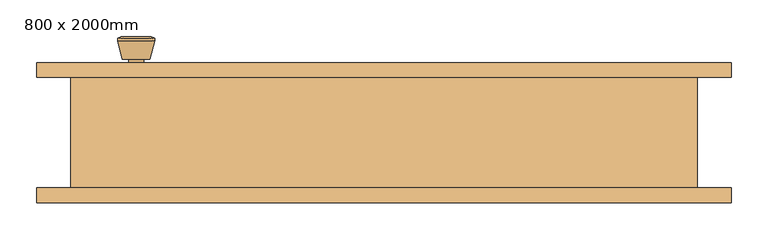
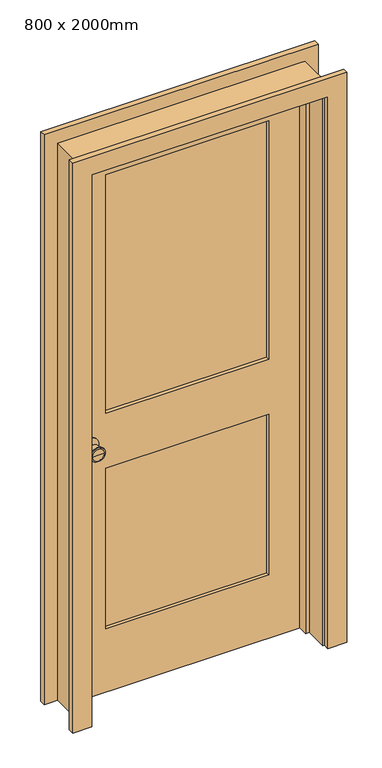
"""IFC4 building model written with IfcOpenShell, lengths in millimetres: door geometry, M_Dveře, vnitřní, jednokřídlé, dvě části, panel, dřevo : 800 x 2000mm."""

from ifc_helpers import new_model, si_unit, point, frame, frame_2d, origin, place, context, project, spatial, polyline, circle_curve, trimmed, segment, composite_curve, outline, extrude, faceted_brep, source, transform, mapped, element, save
from ifc_brep_helpers import plane_surface, cylinder_surface, revolved_surface, advanced_brep


def door_800_x_2000mm_50fb24a1(model_context):
    return source(origin(), model_context, "Body", "SolidModel", [
        advanced_brep(
        [(-336.5, 30.825, 914.4), (-326.5, 30.825, 914.4), (-346.5, 30.825, 914.4), (-316.0241324, -18.175, 914.4), (-336.5, -18.175, 914.4), (-356.9758676, -18.175, 914.4), (-311.5, -16.3471319, 914.4), (-361.5, -16.3471319, 914.4), (-311.5, -12.8834537, 914.4), (-361.5, -12.8834537, 914.4), (-317.863764, 11.825, 914.4), (-355.136236, 11.825, 914.4), (-326.5, 11.825, 914.4), (-346.5, 11.825, 914.4)],
        [
            (0, 1),
            (1, 2, circle_curve(frame((-336.5, 30.825, 914.4), z_axis=(0.0, 1.0, 0.0), x_axis=(-1.0, 0.0, 0.0)), 10.0)),
            (2, 0),
            (2, 1, circle_curve(frame((-336.5, 30.825, 914.4), z_axis=(0.0, 1.0, 0.0), x_axis=(-1.0, 0.0, 0.0)), 10.0)),
            (3, 4),
            (4, 5),
            (5, 3, circle_curve(frame((-336.5, -18.175, 914.4), z_axis=(0.0, -1.0, 0.0), x_axis=(-1.0, 0.0, 0.0)), 20.4758676)),
            (3, 5, circle_curve(frame((-336.5, -18.175, 914.4), z_axis=(0.0, -1.0, 0.0), x_axis=(-1.0, 0.0, 0.0)), 20.4758676)),
            (6, 3),
            (5, 7),
            (7, 6, circle_curve(frame((-336.5, -16.3471319, 914.4), z_axis=(0.0, -1.0, 0.0), x_axis=(-1.0, 0.0, 0.0)), 25.0)),
            (6, 7, circle_curve(frame((-336.5, -16.3471319, 914.4), z_axis=(0.0, -1.0, 0.0), x_axis=(-1.0, 0.0, 0.0)), 25.0)),
            (8, 6),
            (7, 9),
            (9, 8, circle_curve(frame((-336.5, -12.8834537, 914.4), z_axis=(0.0, -1.0, 0.0), x_axis=(-1.0, 0.0, 0.0)), 25.0)),
            (8, 9, circle_curve(frame((-336.5, -12.8834537, 914.4), z_axis=(0.0, -1.0, 0.0), x_axis=(-1.0, 0.0, 0.0)), 25.0)),
            (10, 8),
            (9, 11),
            (11, 10, circle_curve(frame((-336.5, 11.825, 914.4), z_axis=(0.0, -1.0, 0.0), x_axis=(-1.0, 0.0, 0.0)), 18.636236)),
            (10, 11, circle_curve(frame((-336.5, 11.825, 914.4), z_axis=(0.0, -1.0, 0.0), x_axis=(-1.0, 0.0, 0.0)), 18.636236)),
            (12, 10),
            (11, 13),
            (13, 12, circle_curve(frame((-336.5, 11.825, 914.4), z_axis=(0.0, -1.0, 0.0), x_axis=(-1.0, 0.0, 0.0)), 10.0)),
            (12, 13, circle_curve(frame((-336.5, 11.825, 914.4), z_axis=(0.0, -1.0, 0.0), x_axis=(-1.0, 0.0, 0.0)), 10.0)),
            (1, 12),
            (13, 2),
        ],
        [
            plane_surface(frame((-336.5, 30.825, 914.4), z_axis=(0.0, 1.0, 0.0), x_axis=(-1.0, 0.0, 0.0))),
            plane_surface(frame((-336.5, -18.175, 914.4), z_axis=(0.0, -1.0, 0.0), x_axis=(-1.0, 0.0, 0.0))),
            revolved_surface(polyline([(-356.9758676, -18.175, 914.4), (-361.5, -16.3471319, 914.4)]), (-336.5, 30.825, 914.4), (0.0, 1.0, 0.0)),
            cylinder_surface(frame((-336.5, 30.825, 914.4), z_axis=(0.0, 1.0, 0.0), x_axis=(-1.0, 0.0, 0.0)), 25.0),
            revolved_surface(polyline([(-361.5, -12.8834537, 914.4), (-355.136236, 11.825, 914.4)]), (-336.5, 30.825, 914.4), (0.0, 1.0, 0.0)),
            plane_surface(frame((-336.5, 11.825, 914.4), z_axis=(0.0, 1.0, 0.0), x_axis=(-1.0, 0.0, 0.0))),
            cylinder_surface(frame((-336.5, 30.825, 914.4), z_axis=(0.0, 1.0, 0.0), x_axis=(-1.0, 0.0, 0.0)), 10.0),
        ],
        [
            (0, [[1, 2, 3]]),
            (0, [[-3, 4, -1]]),
            (1, [[5, 6, 7]]),
            (1, [[-6, -5, 8]]),
            (2, [[9, -7, 10, 11]]),
            (2, [[-10, -8, -9, 12]]),
            (3, [[13, -11, 14, 15]]),
            (3, [[-14, -12, -13, 16]]),
            (4, [[17, -15, 18, 19]]),
            (4, [[-18, -16, -17, 20]]),
            (5, [[21, -19, 22, 23]]),
            (5, [[-22, -20, -21, 24]]),
            (6, [[25, -23, 26, -2]]),
            (6, [[-26, -24, -25, -4]]),
        ],
    ),
        extrude(outline(composite_curve([segment(trimmed(circle_curve(frame_2d((914.4, -336.5)), 30.0), [point((914.4, -366.5))], [point((914.4, -306.5))], False, "CARTESIAN"), True, "CONTINUOUS"), segment(trimmed(circle_curve(frame_2d((914.4, -336.5)), 30.0), [point((914.4, -306.5))], [point((914.4, -366.5))], False, "CARTESIAN"), True, "CONTINUOUS")], self_intersect=False)), frame((0.0, 30.825, 0.0), z_axis=(0.0, 1.0, 0.0), x_axis=(0.0, 0.0, 1.0)), (0.0, 0.0, 1.0), 6.0),
        advanced_brep(
        [(-336.5, 77.825, 914.4), (-346.5, 77.825, 914.4), (-326.5, 77.825, 914.4), (-316.0241324, 126.825, 914.4), (-356.9758676, 126.825, 914.4), (-336.5, 126.825, 914.4), (-311.5, 124.9971319, 914.4), (-361.5, 124.9971319, 914.4), (-311.5, 121.5334537, 914.4), (-361.5, 121.5334537, 914.4), (-317.863764, 96.825, 914.4), (-355.136236, 96.825, 914.4), (-326.5, 96.825, 914.4), (-346.5, 96.825, 914.4)],
        [
            (0, 1),
            (1, 2, circle_curve(frame((-336.5, 77.825, 914.4), z_axis=(0.0, -1.0, 0.0), x_axis=(-1.0, 0.0, 0.0)), 10.0)),
            (2, 0),
            (2, 1, circle_curve(frame((-336.5, 77.825, 914.4), z_axis=(0.0, -1.0, 0.0), x_axis=(-1.0, 0.0, 0.0)), 10.0)),
            (3, 4, circle_curve(frame((-336.5, 126.825, 914.4), z_axis=(0.0, 1.0, 0.0), x_axis=(-1.0, 0.0, 0.0)), 20.4758676)),
            (4, 5),
            (5, 3),
            (4, 3, circle_curve(frame((-336.5, 126.825, 914.4), z_axis=(0.0, 1.0, 0.0), x_axis=(-1.0, 0.0, 0.0)), 20.4758676)),
            (6, 7, circle_curve(frame((-336.5, 124.9971319, 914.4), z_axis=(0.0, 1.0, 0.0), x_axis=(-1.0, 0.0, 0.0)), 25.0)),
            (7, 4),
            (3, 6),
            (7, 6, circle_curve(frame((-336.5, 124.9971319, 914.4), z_axis=(0.0, 1.0, 0.0), x_axis=(-1.0, 0.0, 0.0)), 25.0)),
            (8, 9, circle_curve(frame((-336.5, 121.5334537, 914.4), z_axis=(0.0, 1.0, 0.0), x_axis=(-1.0, 0.0, 0.0)), 25.0)),
            (9, 7),
            (6, 8),
            (9, 8, circle_curve(frame((-336.5, 121.5334537, 914.4), z_axis=(0.0, 1.0, 0.0), x_axis=(-1.0, 0.0, 0.0)), 25.0)),
            (10, 11, circle_curve(frame((-336.5, 96.825, 914.4), z_axis=(0.0, 1.0, 0.0), x_axis=(-1.0, 0.0, 0.0)), 18.636236)),
            (11, 9),
            (8, 10),
            (11, 10, circle_curve(frame((-336.5, 96.825, 914.4), z_axis=(0.0, 1.0, 0.0), x_axis=(-1.0, 0.0, 0.0)), 18.636236)),
            (12, 13, circle_curve(frame((-336.5, 96.825, 914.4), z_axis=(0.0, 1.0, 0.0), x_axis=(-1.0, 0.0, 0.0)), 10.0)),
            (13, 11),
            (10, 12),
            (13, 12, circle_curve(frame((-336.5, 96.825, 914.4), z_axis=(0.0, 1.0, 0.0), x_axis=(-1.0, 0.0, 0.0)), 10.0)),
            (1, 13),
            (12, 2),
        ],
        [
            plane_surface(frame((-336.5, 77.825, 914.4), z_axis=(0.0, -1.0, 0.0), x_axis=(-1.0, 0.0, 0.0))),
            plane_surface(frame((-336.5, 126.825, 914.4), z_axis=(0.0, 1.0, 0.0), x_axis=(-1.0, 0.0, 0.0))),
            revolved_surface(polyline([(-356.9758676, 126.825, 914.4), (-361.5, 124.9971319, 914.4)]), (-336.5, 77.825, 914.4), (0.0, -1.0, 0.0)),
            cylinder_surface(frame((-336.5, 77.825, 914.4), z_axis=(0.0, -1.0, 0.0), x_axis=(-1.0, 0.0, 0.0)), 25.0),
            revolved_surface(polyline([(-361.5, 121.5334537, 914.4), (-355.136236, 96.825, 914.4)]), (-336.5, 77.825, 914.4), (0.0, -1.0, 0.0)),
            plane_surface(frame((-336.5, 96.825, 914.4), z_axis=(0.0, -1.0, 0.0), x_axis=(-1.0, 0.0, 0.0))),
            cylinder_surface(frame((-336.5, 77.825, 914.4), z_axis=(0.0, -1.0, 0.0), x_axis=(-1.0, 0.0, 0.0)), 10.0),
        ],
        [
            (0, [[1, 2, 3]]),
            (0, [[-3, 4, -1]]),
            (1, [[5, 6, 7]]),
            (1, [[8, -7, -6]]),
            (2, [[9, 10, -5, 11]]),
            (2, [[12, -11, -8, -10]]),
            (3, [[13, 14, -9, 15]]),
            (3, [[16, -15, -12, -14]]),
            (4, [[17, 18, -13, 19]]),
            (4, [[20, -19, -16, -18]]),
            (5, [[21, 22, -17, 23]]),
            (5, [[24, -23, -20, -22]]),
            (6, [[-2, 25, -21, 26]]),
            (6, [[-4, -26, -24, -25]]),
        ],
    ),
        extrude(outline(composite_curve([segment(trimmed(circle_curve(frame_2d((914.4, -336.5)), 30.0), [point((914.4, -366.5))], [point((914.4, -306.5))], False, "CARTESIAN"), True, "CONTINUOUS"), segment(trimmed(circle_curve(frame_2d((914.4, -336.5)), 30.0), [point((914.4, -306.5))], [point((914.4, -366.5))], False, "CARTESIAN"), True, "CONTINUOUS")], self_intersect=False)), frame((0.0, 71.825, 0.0), z_axis=(0.0, 1.0, 0.0), x_axis=(0.0, 0.0, 1.0)), (0.0, 0.0, 1.0), 6.0),
        faceted_brep([(425.0, 71.825, 0.0), (425.0, -78.175, 0.0), (400.0, -78.175, 0.0), (400.0, 1.9, 0.0), (387.3, 1.9, 0.0), (387.3, 36.825, 0.0), (400.0, 36.825, 0.0), (400.0, 71.825, 0.0), (425.0, 71.825, 2025.0), (425.0, -78.175, 2025.0), (-425.0, -78.175, 2025.0), (-425.0, -78.175, 0.0), (-400.0, -78.175, 0.0), (-400.0, -78.175, 2000.0), (400.0, -78.175, 2000.0), (400.0, 1.9, 2000.0), (-400.0, 1.9, 2000.0), (-400.0, 1.9, 0.0), (-387.3, 1.9, 0.0), (-387.3, 1.9, 1987.3), (387.3, 1.9, 1987.3), (387.3, 36.825, 1987.3), (-387.3, 36.825, 1987.3), (-387.3, 36.825, 0.0), (-400.0, 36.825, 0.0), (-400.0, 36.825, 2000.0), (400.0, 36.825, 2000.0), (400.0, 71.825, 2000.0), (-400.0, 71.825, 2000.0), (-400.0, 71.825, 0.0), (-425.0, 71.825, 0.0), (-425.0, 71.825, 2025.0)], [[[0, 1, 2, 3, 4, 5, 6, 7]], [[1, 0, 8, 9]], [[2, 1, 9, 10, 11, 12, 13, 14]], [[3, 2, 14, 15]], [[4, 3, 15, 16, 17, 18, 19, 20]], [[5, 4, 20, 21]], [[6, 5, 21, 22, 23, 24, 25, 26]], [[7, 6, 26, 27]], [[0, 7, 27, 28, 29, 30, 31, 8]], [[9, 8, 31, 10]], [[15, 14, 13, 16]], [[21, 20, 19, 22]], [[27, 26, 25, 28]], [[30, 29, 24, 23, 18, 17, 12, 11]], [[10, 31, 30, 11]], [[16, 13, 12, 17]], [[22, 19, 18, 23]], [[28, 25, 24, 29]]]),
        extrude(outline(polyline([(2000.0, -400.0), (0.0, -400.0), (0.0, 400.0), (2000.0, 400.0), (2000.0, -400.0)]), holes=[polyline([(1880.0, -280.0), (1880.0, 280.0), (1014.4, 280.0), (1014.4, -280.0), (1880.0, -280.0)]), polyline([(814.4, -280.0), (814.4, 280.0), (230.0, 280.0), (230.0, -280.0), (814.4, -280.0)])]), frame((0.0, 36.825, 0.0), z_axis=(0.0, 1.0, 0.0), x_axis=(0.0, 0.0, 1.0)), (0.0, 0.0, 1.0), 35.0),
        extrude(outline(polyline([(280.0, 48.4916667), (-280.0, 48.4916667), (-280.0, 60.1583333), (280.0, 60.1583333), (280.0, 48.4916667)])), frame((0.0, 0.0, 1014.4), z_axis=(0.0, 0.0, 1.0), x_axis=(1.0, 0.0, 0.0)), (0.0, 0.0, 1.0), 865.6),
        extrude(outline(polyline([(280.0, 48.4916667), (-280.0, 48.4916667), (-280.0, 60.1583333), (280.0, 60.1583333), (280.0, 48.4916667)])), frame((0.0, 0.0, 230.0), z_axis=(0.0, 0.0, 1.0), x_axis=(1.0, 0.0, 0.0)), (0.0, 0.0, 1.0), 584.4),
        extrude(outline(polyline([(0.0, 406.35), (0.0, 471.35), (2071.35, 471.35), (2071.35, -471.35), (0.0, -471.35), (0.0, -406.35), (2006.35, -406.35), (2006.35, 406.35), (0.0, 406.35)])), frame((0.0, 71.825, 0.0), z_axis=(0.0, 1.0, 0.0), x_axis=(0.0, 0.0, 1.0)), (0.0, 0.0, 1.0), 20.0),
        extrude(outline(polyline([(0.0, 406.35), (0.0, 471.35), (2071.35, 471.35), (2071.35, -471.35), (0.0, -471.35), (0.0, -406.35), (2006.35, -406.35), (2006.35, 406.35), (0.0, 406.35)])), frame((0.0, -98.175, 0.0), z_axis=(0.0, 1.0, 0.0), x_axis=(0.0, 0.0, 1.0)), (0.0, 0.0, 1.0), 20.0),
    ])


if __name__ == "__main__":
    model = new_model("IFC4")
    model_context = context("Model", 3, world=origin())
    ifc_project = project(units=[si_unit("LENGTHUNIT", "METRE", prefix="MILLI")], contexts=[model_context])
    site = spatial("IfcSite", under=ifc_project)
    building = spatial("IfcBuilding", under=site)
    placement = place(None, origin())
    door_800_x_2000mm_shape = door_800_x_2000mm_50fb24a1(model_context)
    element("IfcDoor", 1, ObjectType="M_Dveře, vnitřní, jednokřídlé, dvě části, panel, dřevo : 800 x 2000mm", at=placement, inside=building, context=model_context, shape_type="MappedRepresentation", body=[
        mapped(door_800_x_2000mm_shape, transform((0.0, 0.0, 0.0), x_axis=(1.0, 0.0, 0.0), y_axis=(0.0, 1.0, 0.0), z_axis=(0.0, 0.0, 1.0))),
    ])
    save(model, "model.ifc")
